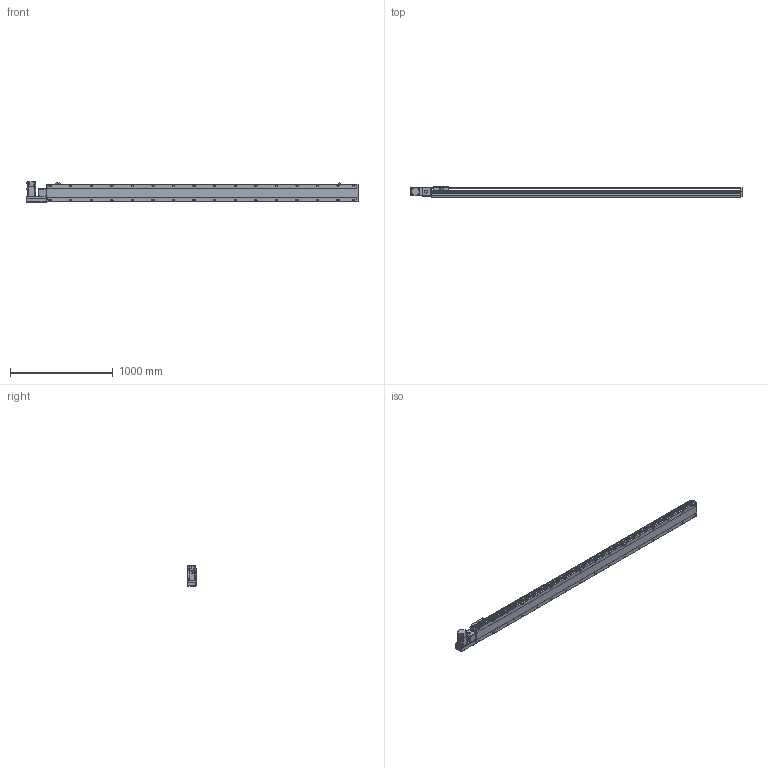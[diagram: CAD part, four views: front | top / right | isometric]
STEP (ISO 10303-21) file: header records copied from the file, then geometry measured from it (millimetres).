
FILE_DESCRIPTION( ( 'STEP AP214' ), '1' );
FILE_NAME( 'x:/temp/worker_1/temp/exporttempdir_5824_204_Urm0j/format_0/PBS170-P40-S2750-L-T75-C1-N(0).stp', '2022-06-07T06:59:13', ( 'License CC BY-ND 4.0' ), ( 'CADENAS' ), ' ', 'PARTsolutions', ' ' );
FILE_SCHEMA( ( 'AUTOMOTIVE_DESIGN { 1 0 10303 214 1 1 1 1 }' ) );
Length unit declared in the file: millimetre
Products named in the file (7): PBS170-P40-S2750-L-T75-C1-N(0); _PBS170-S2750()_body; _PBS170T-L_motors; _T75-p1; _PBS170_sliser; _PBS170_plant; _PBS170_sensor
Assembly tree (8 placements, depth 2):
  PBS170-P40-S2750-L-T75-C1-N(0)
    _PBS170-S2750()_body
    _PBS170T-L_motors
    _T75-p1
    _PBS170_sliser
    _PBS170_plant
    _PBS170_sensor  x3
Bounding box: 3228 x 97 x 197.3 mm (x, y, z)
Volume: 23460279.2 mm3; surface area: 2944360 mm2
Topology: 8 solids, 8 shells, 1210 faces, 3195 edges, 2082 vertices
Faces by surface type: plane 735, cylinder 403, cone 62, sphere 8, torus 2
Full cylindrical faces by diameter (mm): 3.242 x4, 4 x2, 4.4 x4, 4.5 x6, 4.917 x4, 6 x9, 6.647 x40, 7 x2, 7.5 x4, 8 x8, 8.5 x32, 10 x4, 10.5 x32, 11 x2, 30 x2, 40 x1, 70 x1
Entity records: 44876 total; most frequent: CARTESIAN_POINT 7565, DIRECTION 5860, ORIENTED_EDGE 5508, EDGE_CURVE 2754, AXIS2_PLACEMENT_3D 2077, VERTEX_POINT 1922, LINE 1706, VECTOR 1706
